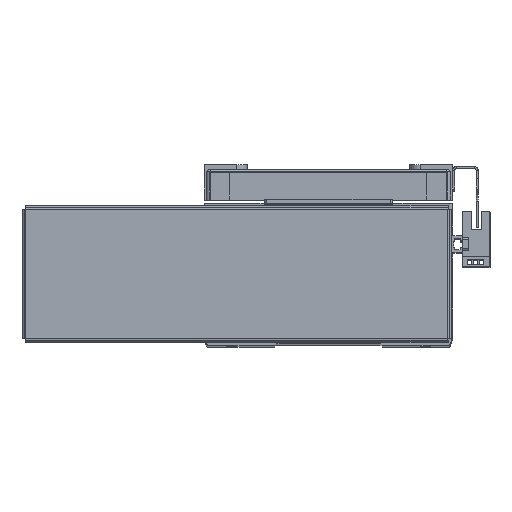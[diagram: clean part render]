
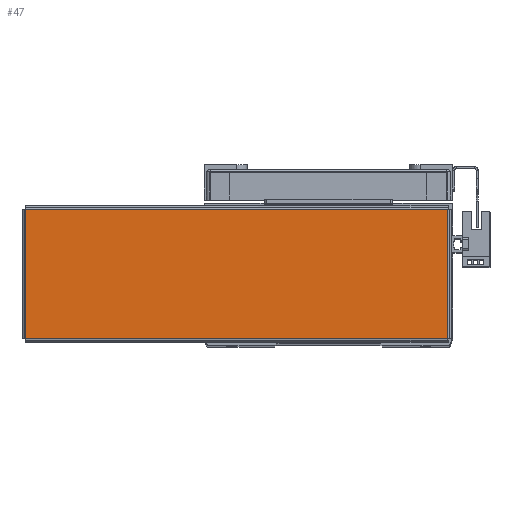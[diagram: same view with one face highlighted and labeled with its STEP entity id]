
A CAD part, top view. The second image highlights one B-rep face of the part: STEP entity #47.
In plain terms, the highlighted planar face has unit normal (0, 0, 1) as drawn and (0, -1, 0) by its records, which use the part's own axes.
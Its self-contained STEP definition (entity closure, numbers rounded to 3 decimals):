
#47 = ADVANCED_FACE ( 'NONE', ( #18946 ), #23481, .F. ) ;
#459 = ORIENTED_EDGE ( 'NONE', *, *, #13306, .T. ) ;
#460 = ORIENTED_EDGE ( 'NONE', *, *, #13368, .T. ) ;
#498 = ORIENTED_EDGE ( 'NONE', *, *, #13369, .T. ) ;
#556 = ORIENTED_EDGE ( 'NONE', *, *, #13294, .T. ) ;
#10945 = EDGE_LOOP ( 'NONE', ( #460, #498, #459, #556 ) ) ;
#13294 = EDGE_CURVE ( 'NONE', #14680, #14694, #26525, .T. ) ;
#13306 = EDGE_CURVE ( 'NONE', #14659, #14680, #26520, .T. ) ;
#13368 = EDGE_CURVE ( 'NONE', #14694, #14710, #26620, .T. ) ;
#13369 = EDGE_CURVE ( 'NONE', #14710, #14659, #26606, .T. ) ;
#14659 = VERTEX_POINT ( 'NONE', #37192 ) ;
#14680 = VERTEX_POINT ( 'NONE', #37240 ) ;
#14694 = VERTEX_POINT ( 'NONE', #37201 ) ;
#14710 = VERTEX_POINT ( 'NONE', #37206 ) ;
#18946 = FACE_OUTER_BOUND ( 'NONE', #10945, .T. ) ;
#20102 = AXIS2_PLACEMENT_3D ( 'NONE', #23514, #23452, #23499 ) ;
#23452 = DIRECTION ( 'NONE',  ( 0., 1., 0. ) ) ;
#23481 = PLANE ( 'NONE',  #20102 ) ;
#23499 = DIRECTION ( 'NONE',  ( 0., 0., 1. ) ) ;
#23514 = CARTESIAN_POINT ( 'NONE',  ( 0., -1., 0. ) ) ;
#26520 = LINE ( 'NONE', #27465, #26563 ) ;
#26525 = LINE ( 'NONE', #27438, #26560 ) ;
#26560 = VECTOR ( 'NONE', #27404, 1000. ) ;
#26563 = VECTOR ( 'NONE', #27483, 1000. ) ;
#26606 = LINE ( 'NONE', #27636, #26629 ) ;
#26620 = LINE ( 'NONE', #27650, #26621 ) ;
#26621 = VECTOR ( 'NONE', #27664, 1000. ) ;
#26629 = VECTOR ( 'NONE', #27625, 1000. ) ;
#27404 = DIRECTION ( 'NONE',  ( 0., 0., 1. ) ) ;
#27438 = CARTESIAN_POINT ( 'NONE',  ( 103.763, -1., -31.793 ) ) ;
#27465 = CARTESIAN_POINT ( 'NONE',  ( -103.793, -1., -31.763 ) ) ;
#27483 = DIRECTION ( 'NONE',  ( 1., 0., 0. ) ) ;
#27625 = DIRECTION ( 'NONE',  ( 0., 0., -1. ) ) ;
#27636 = CARTESIAN_POINT ( 'NONE',  ( -103.763, -1., 31.793 ) ) ;
#27650 = CARTESIAN_POINT ( 'NONE',  ( 103.793, -1., 31.763 ) ) ;
#27664 = DIRECTION ( 'NONE',  ( -1., 0., 0. ) ) ;
#37192 = CARTESIAN_POINT ( 'NONE',  ( -103.763, -1., -31.763 ) ) ;
#37201 = CARTESIAN_POINT ( 'NONE',  ( 103.763, -1., 31.763 ) ) ;
#37206 = CARTESIAN_POINT ( 'NONE',  ( -103.763, -1., 31.763 ) ) ;
#37240 = CARTESIAN_POINT ( 'NONE',  ( 103.763, -1., -31.763 ) ) ;
